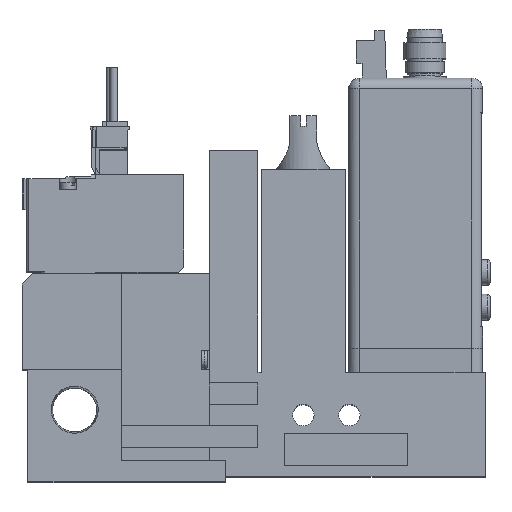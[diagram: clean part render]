
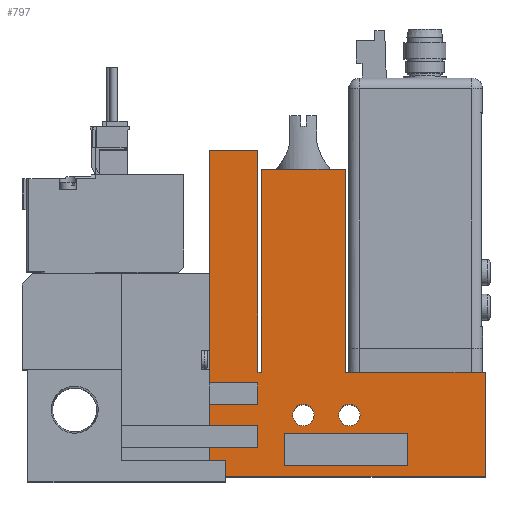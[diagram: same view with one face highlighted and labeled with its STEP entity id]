
A CAD part, top view. The second image highlights one B-rep face of the part: STEP entity #797.
In plain terms, the highlighted planar face has unit normal (0, 0, 1).
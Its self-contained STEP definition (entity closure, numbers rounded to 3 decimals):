
#797=ADVANCED_FACE('',(#2742,#2743,#2744,#2745),#2746,.T.);
#2742=FACE_OUTER_BOUND('',#6442,.T.);
#2743=FACE_BOUND('',#6443,.T.);
#2744=FACE_BOUND('',#6444,.T.);
#2745=FACE_BOUND('',#6445,.T.);
#2746=PLANE('',#6446);
#6442=EDGE_LOOP('',(#12012,#12013,#12014,#12015,#12016,#12017,#12018,#12019,#12020,#12021,#12022,#12023,#12024,#12025,#12026,#12027,#12028,#12029));
#6443=EDGE_LOOP('',(#12030,#12031,#12032,#12033));
#6444=EDGE_LOOP('',(#12034));
#6445=EDGE_LOOP('',(#12035));
#6446=AXIS2_PLACEMENT_3D('',#12036,#12037,#12038);
#12012=ORIENTED_EDGE('',*,*,#23202,.T.);
#12013=ORIENTED_EDGE('',*,*,#23164,.T.);
#12014=ORIENTED_EDGE('',*,*,#23053,.T.);
#12015=ORIENTED_EDGE('',*,*,#23154,.T.);
#12016=ORIENTED_EDGE('',*,*,#23083,.T.);
#12017=ORIENTED_EDGE('',*,*,#23184,.T.);
#12018=ORIENTED_EDGE('',*,*,#23197,.T.);
#12019=ORIENTED_EDGE('',*,*,#23077,.T.);
#12020=ORIENTED_EDGE('',*,*,#23119,.T.);
#12021=ORIENTED_EDGE('',*,*,#23172,.T.);
#12022=ORIENTED_EDGE('',*,*,#23203,.T.);
#12023=ORIENTED_EDGE('',*,*,#23070,.T.);
#12024=ORIENTED_EDGE('',*,*,#23116,.T.);
#12025=ORIENTED_EDGE('',*,*,#23204,.T.);
#12026=ORIENTED_EDGE('',*,*,#23205,.T.);
#12027=ORIENTED_EDGE('',*,*,#23179,.T.);
#12028=ORIENTED_EDGE('',*,*,#23206,.T.);
#12029=ORIENTED_EDGE('',*,*,#23207,.T.);
#12030=ORIENTED_EDGE('',*,*,#23124,.T.);
#12031=ORIENTED_EDGE('',*,*,#23208,.T.);
#12032=ORIENTED_EDGE('',*,*,#23209,.T.);
#12033=ORIENTED_EDGE('',*,*,#23049,.T.);
#12034=ORIENTED_EDGE('',*,*,#23090,.T.);
#12035=ORIENTED_EDGE('',*,*,#23160,.T.);
#12036=CARTESIAN_POINT('',(0.0,0.0,10.0));
#12037=DIRECTION('',(0.0,0.0,1.0));
#12038=DIRECTION('',(1.0,0.0,0.0));
#23049=EDGE_CURVE('',#27947,#27952,#27954,.T.);
#23053=EDGE_CURVE('',#27955,#27960,#27962,.T.);
#23070=EDGE_CURVE('',#27996,#27994,#27997,.T.);
#23077=EDGE_CURVE('',#28009,#28007,#28010,.T.);
#23083=EDGE_CURVE('',#28021,#28019,#28022,.T.);
#23090=EDGE_CURVE('',#28033,#28033,#28034,.T.);
#23116=EDGE_CURVE('',#27994,#28076,#28078,.T.);
#23119=EDGE_CURVE('',#28007,#28081,#28083,.T.);
#23124=EDGE_CURVE('',#27952,#28090,#28092,.T.);
#23154=EDGE_CURVE('',#27960,#28021,#28139,.T.);
#23160=EDGE_CURVE('',#28148,#28148,#28149,.T.);
#23164=EDGE_CURVE('',#28150,#27955,#28156,.T.);
#23172=EDGE_CURVE('',#28081,#28168,#28170,.T.);
#23179=EDGE_CURVE('',#28182,#28180,#28183,.T.);
#23184=EDGE_CURVE('',#28019,#28189,#28190,.T.);
#23197=EDGE_CURVE('',#28189,#28009,#28206,.T.);
#23202=EDGE_CURVE('',#28213,#28150,#28214,.T.);
#23203=EDGE_CURVE('',#28168,#27996,#28215,.T.);
#23204=EDGE_CURVE('',#28076,#28216,#28217,.T.);
#23205=EDGE_CURVE('',#28216,#28182,#28218,.T.);
#23206=EDGE_CURVE('',#28180,#28219,#28220,.T.);
#23207=EDGE_CURVE('',#28219,#28213,#28221,.T.);
#23208=EDGE_CURVE('',#28090,#28222,#28223,.T.);
#23209=EDGE_CURVE('',#28222,#27947,#28224,.T.);
#27947=VERTEX_POINT('',#35336);
#27952=VERTEX_POINT('',#35343);
#27954=LINE('',#35346,#35347);
#27955=VERTEX_POINT('',#35348);
#27960=VERTEX_POINT('',#35355);
#27962=LINE('',#35358,#35359);
#27994=VERTEX_POINT('',#35406);
#27996=VERTEX_POINT('',#35409);
#27997=LINE('',#35410,#35411);
#28007=VERTEX_POINT('',#35426);
#28009=VERTEX_POINT('',#35429);
#28010=LINE('',#35430,#35431);
#28019=VERTEX_POINT('',#35444);
#28021=VERTEX_POINT('',#35447);
#28022=LINE('',#35448,#35449);
#28033=VERTEX_POINT('',#35465);
#28034=CIRCLE('',#35466,2.0);
#28076=VERTEX_POINT('',#35526);
#28078=LINE('',#35529,#35530);
#28081=VERTEX_POINT('',#35534);
#28083=LINE('',#35537,#35538);
#28090=VERTEX_POINT('',#35546);
#28092=LINE('',#35549,#35550);
#28139=LINE('',#35621,#35622);
#28148=VERTEX_POINT('',#35635);
#28149=CIRCLE('',#35636,2.0);
#28150=VERTEX_POINT('',#35637);
#28156=LINE('',#35646,#35647);
#28168=VERTEX_POINT('',#35663);
#28170=LINE('',#35666,#35667);
#28180=VERTEX_POINT('',#35682);
#28182=VERTEX_POINT('',#35685);
#28183=LINE('',#35686,#35687);
#28189=VERTEX_POINT('',#35696);
#28190=LINE('',#35697,#35698);
#28206=LINE('',#35726,#35727);
#28213=VERTEX_POINT('',#35738);
#28214=LINE('',#35739,#35740);
#28215=LINE('',#35741,#35742);
#28216=VERTEX_POINT('',#35743);
#28217=LINE('',#35744,#35745);
#28218=LINE('',#35746,#35747);
#28219=VERTEX_POINT('',#35748);
#28220=LINE('',#35749,#35750);
#28221=LINE('',#35751,#35752);
#28222=VERTEX_POINT('',#35753);
#28223=LINE('',#35754,#35755);
#28224=LINE('',#35756,#35757);
#35336=CARTESIAN_POINT('',(72.1,2.0,10.0));
#35343=CARTESIAN_POINT('',(49.1,2.0,10.0));
#35346=CARTESIAN_POINT('',(0.0,2.0,10.0));
#35347=VECTOR('',#44855,1.0);
#35348=CARTESIAN_POINT('',(44.1,17.5,10.0));
#35355=CARTESIAN_POINT('',(44.1,13.5,10.0));
#35358=CARTESIAN_POINT('',(44.1,0.0,10.0));
#35359=VECTOR('',#44859,1.0);
#35406=CARTESIAN_POINT('',(60.45,19.5,10.0));
#35409=CARTESIAN_POINT('',(86.6,19.5,10.0));
#35410=CARTESIAN_POINT('',(86.6,19.5,10.0));
#35411=VECTOR('',#44876,1.0);
#35426=CARTESIAN_POINT('',(35.1,5.5,10.0));
#35429=CARTESIAN_POINT('',(44.1,5.5,10.0));
#35430=CARTESIAN_POINT('',(0.0,5.5,10.0));
#35431=VECTOR('',#44883,1.0);
#35444=CARTESIAN_POINT('',(35.1,9.5,10.0));
#35447=CARTESIAN_POINT('',(35.1,13.5,10.0));
#35448=CARTESIAN_POINT('',(35.1,0.0,10.0));
#35449=VECTOR('',#44889,1.0);
#35465=CARTESIAN_POINT('',(54.6,11.5,10.0));
#35466=AXIS2_PLACEMENT_3D('',#44898,#44899,#44900);
#35526=CARTESIAN_POINT('',(60.45,57.5,10.0));
#35529=CARTESIAN_POINT('',(60.45,19.5,10.0));
#35530=VECTOR('',#44938,1.0);
#35534=CARTESIAN_POINT('',(35.1,0.0,10.0));
#35537=CARTESIAN_POINT('',(35.1,0.0,10.0));
#35538=VECTOR('',#44941,1.0);
#35546=CARTESIAN_POINT('',(49.1,8.0,10.0));
#35549=CARTESIAN_POINT('',(49.1,0.0,10.0));
#35550=VECTOR('',#44950,1.0);
#35621=CARTESIAN_POINT('',(0.0,13.5,10.0));
#35622=VECTOR('',#44990,1.0);
#35635=CARTESIAN_POINT('',(63.2,11.5,10.0));
#35636=AXIS2_PLACEMENT_3D('',#44998,#44999,#45000);
#35637=CARTESIAN_POINT('',(35.1,17.5,10.0));
#35646=CARTESIAN_POINT('',(0.0,17.5,10.0));
#35647=VECTOR('',#45004,1.0);
#35663=CARTESIAN_POINT('',(86.6,0.0,10.0));
#35666=CARTESIAN_POINT('',(18.6,0.0,10.0));
#35667=VECTOR('',#45016,1.0);
#35682=CARTESIAN_POINT('',(44.1,19.5,10.0));
#35685=CARTESIAN_POINT('',(44.75,19.5,10.0));
#35686=CARTESIAN_POINT('',(44.75,19.5,10.0));
#35687=VECTOR('',#45023,1.0);
#35696=CARTESIAN_POINT('',(44.1,9.5,10.0));
#35697=CARTESIAN_POINT('',(0.0,9.5,10.0));
#35698=VECTOR('',#45030,1.0);
#35726=CARTESIAN_POINT('',(44.1,0.0,10.0));
#35727=VECTOR('',#45043,1.0);
#35738=CARTESIAN_POINT('',(35.1,61.0,10.0));
#35739=CARTESIAN_POINT('',(35.1,61.0,10.0));
#35740=VECTOR('',#45048,1.0);
#35741=CARTESIAN_POINT('',(86.6,0.0,10.0));
#35742=VECTOR('',#45049,1.0);
#35743=CARTESIAN_POINT('',(44.75,57.5,10.0));
#35744=CARTESIAN_POINT('',(60.45,57.5,10.0));
#35745=VECTOR('',#45050,1.0);
#35746=CARTESIAN_POINT('',(44.75,57.5,10.0));
#35747=VECTOR('',#45051,1.0);
#35748=CARTESIAN_POINT('',(44.1,61.0,10.0));
#35749=CARTESIAN_POINT('',(44.1,19.5,10.0));
#35750=VECTOR('',#45052,1.0);
#35751=CARTESIAN_POINT('',(44.1,61.0,10.0));
#35752=VECTOR('',#45053,1.0);
#35753=CARTESIAN_POINT('',(72.1,8.0,10.0));
#35754=CARTESIAN_POINT('',(0.0,8.0,10.0));
#35755=VECTOR('',#45054,1.0);
#35756=CARTESIAN_POINT('',(72.1,0.0,10.0));
#35757=VECTOR('',#45055,1.0);
#44855=DIRECTION('',(-1.0,0.0,0.0));
#44859=DIRECTION('',(0.0,-1.0,0.0));
#44876=DIRECTION('',(-1.0,0.0,0.0));
#44883=DIRECTION('',(-1.0,0.0,0.0));
#44889=DIRECTION('',(0.0,-1.0,0.0));
#44898=CARTESIAN_POINT('',(52.6,11.5,10.0));
#44899=DIRECTION('',(0.0,0.0,-1.0));
#44900=DIRECTION('',(1.0,0.0,0.0));
#44938=DIRECTION('',(0.0,1.0,0.0));
#44941=DIRECTION('',(0.0,-1.0,0.0));
#44950=DIRECTION('',(0.0,1.0,0.0));
#44990=DIRECTION('',(-1.0,0.0,0.0));
#44998=CARTESIAN_POINT('',(61.2,11.5,10.0));
#44999=DIRECTION('',(0.0,0.0,-1.0));
#45000=DIRECTION('',(1.0,0.0,0.0));
#45004=DIRECTION('',(1.0,0.0,0.0));
#45016=DIRECTION('',(1.0,0.0,0.0));
#45023=DIRECTION('',(-1.0,0.0,0.0));
#45030=DIRECTION('',(1.0,0.0,0.0));
#45043=DIRECTION('',(0.0,-1.0,0.0));
#45048=DIRECTION('',(0.0,-1.0,0.0));
#45049=DIRECTION('',(0.0,1.0,0.0));
#45050=DIRECTION('',(-1.0,0.0,0.0));
#45051=DIRECTION('',(0.0,-1.0,0.0));
#45052=DIRECTION('',(0.0,1.0,0.0));
#45053=DIRECTION('',(-1.0,0.0,0.0));
#45054=DIRECTION('',(1.0,0.0,0.0));
#45055=DIRECTION('',(0.0,-1.0,0.0));
